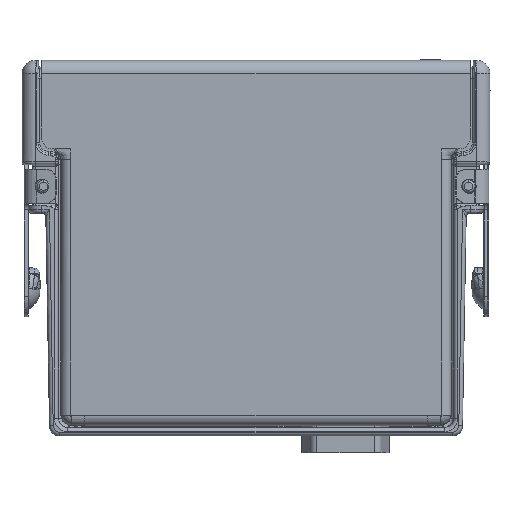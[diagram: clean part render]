
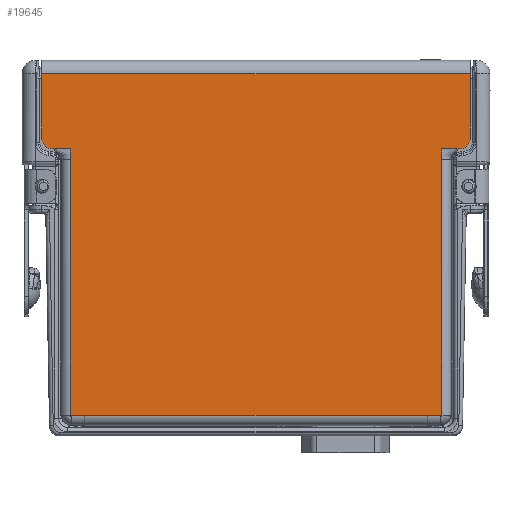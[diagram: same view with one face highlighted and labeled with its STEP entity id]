
A CAD part, left-side view. The second image highlights one B-rep face of the part: STEP entity #19645.
In plain terms, the highlighted planar face has unit normal (-1, 0, 0).
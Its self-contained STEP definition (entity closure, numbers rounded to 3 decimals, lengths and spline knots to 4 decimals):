
#16479=DIRECTION('',(0.,1.,0.));
#16480=VECTOR('',#16479,3.179);
#16481=CARTESIAN_POINT('',(-0.45,-1.5895,2.683));
#16482=LINE('',#16481,#16480);
#16976=DIRECTION('',(0.,1.,0.));
#16977=VECTOR('',#16976,0.009);
#16978=CARTESIAN_POINT('',(-0.45,1.5005,2.127));
#16979=LINE('',#16978,#16977);
#16996=DIRECTION('',(0.,0.,1.));
#16997=VECTOR('',#16996,0.476);
#16998=CARTESIAN_POINT('',(-0.45,1.5895,2.207));
#16999=LINE('',#16998,#16997);
#17000=DIRECTION('',(0.,1.,0.));
#17001=VECTOR('',#17000,0.01);
#17002=CARTESIAN_POINT('',(-0.45,1.3665,0.153));
#17003=LINE('',#17002,#17001);
#17004=DIRECTION('',(0.,0.,1.));
#17005=VECTOR('',#17004,0.079);
#17006=CARTESIAN_POINT('',(-0.45,1.3765,2.048));
#17007=LINE('',#17006,#17005);
#17008=DIRECTION('',(0.,1.,0.));
#17009=VECTOR('',#17008,0.1115);
#17010=CARTESIAN_POINT('',(-0.45,1.3765,2.127));
#17011=LINE('',#17010,#17009);
#17012=DIRECTION('',(0.,1.,0.));
#17013=VECTOR('',#17012,0.0125);
#17014=CARTESIAN_POINT('',(-0.45,1.488,2.127));
#17015=LINE('',#17014,#17013);
#17016=CARTESIAN_POINT('',(-0.45,1.5095,2.207));
#17017=DIRECTION('',(-1.,0.,0.));
#17018=DIRECTION('',(0.,1.,0.));
#17019=AXIS2_PLACEMENT_3D('',#17016,#17017,#17018);
#17021=CARTESIAN_POINT('',(-0.45,-1.5095,2.207));
#17022=DIRECTION('',(-1.,0.,0.));
#17023=DIRECTION('',(0.,0.,-1.));
#17024=AXIS2_PLACEMENT_3D('',#17021,#17022,#17023);
#17026=DIRECTION('',(0.,-1.,0.));
#17027=VECTOR('',#17026,0.0125);
#17028=CARTESIAN_POINT('',(-0.45,-1.488,2.127));
#17029=LINE('',#17028,#17027);
#17030=DIRECTION('',(0.,-1.,0.));
#17031=VECTOR('',#17030,0.1115);
#17032=CARTESIAN_POINT('',(-0.45,-1.3765,2.127));
#17033=LINE('',#17032,#17031);
#17034=DIRECTION('',(0.,0.,1.));
#17035=VECTOR('',#17034,0.079);
#17036=CARTESIAN_POINT('',(-0.45,-1.3765,2.048));
#17037=LINE('',#17036,#17035);
#17038=DIRECTION('',(0.,1.,0.));
#17039=VECTOR('',#17038,0.01);
#17040=CARTESIAN_POINT('',(-0.45,-1.3765,0.153));
#17041=LINE('',#17040,#17039);
#17049=DIRECTION('',(0.,-1.,0.));
#17050=VECTOR('',#17049,2.733);
#17051=CARTESIAN_POINT('',(-0.45,1.3665,0.153));
#17052=LINE('',#17051,#17050);
#17120=DIRECTION('',(0.,0.,1.));
#17121=VECTOR('',#17120,1.895);
#17122=CARTESIAN_POINT('',(-0.45,-1.3765,0.153));
#17123=LINE('',#17122,#17121);
#17372=DIRECTION('',(0.,-1.,0.));
#17373=VECTOR('',#17372,0.009);
#17374=CARTESIAN_POINT('',(-0.45,-1.5005,2.127));
#17375=LINE('',#17374,#17373);
#17388=DIRECTION('',(0.,0.,-1.));
#17389=VECTOR('',#17388,0.476);
#17390=CARTESIAN_POINT('',(-0.45,-1.5895,2.683));
#17391=LINE('',#17390,#17389);
#17787=DIRECTION('',(0.,0.,-1.));
#17788=VECTOR('',#17787,1.895);
#17789=CARTESIAN_POINT('',(-0.45,1.3765,2.048));
#17790=LINE('',#17789,#17788);
#18118=CARTESIAN_POINT('',(-0.45,1.5895,2.207));
#18119=CARTESIAN_POINT('',(-0.45,1.5095,2.127));
#18120=VERTEX_POINT('',#18118);
#18121=VERTEX_POINT('',#18119);
#18122=CARTESIAN_POINT('',(-0.45,1.5895,2.683));
#18123=VERTEX_POINT('',#18122);
#18124=CARTESIAN_POINT('',(-0.45,-1.5895,2.683));
#18125=VERTEX_POINT('',#18124);
#18126=CARTESIAN_POINT('',(-0.45,-1.5895,2.207));
#18127=VERTEX_POINT('',#18126);
#18128=CARTESIAN_POINT('',(-0.45,-1.5095,2.127));
#18129=VERTEX_POINT('',#18128);
#18470=CARTESIAN_POINT('',(-0.45,-1.488,2.127));
#18471=CARTESIAN_POINT('',(-0.45,-1.5005,2.127));
#18472=VERTEX_POINT('',#18470);
#18473=VERTEX_POINT('',#18471);
#18474=CARTESIAN_POINT('',(-0.45,-1.3765,2.048));
#18475=CARTESIAN_POINT('',(-0.45,-1.3765,2.127));
#18476=VERTEX_POINT('',#18474);
#18477=VERTEX_POINT('',#18475);
#18491=CARTESIAN_POINT('',(-0.45,1.3765,2.048));
#18492=CARTESIAN_POINT('',(-0.45,1.3765,2.127));
#18493=VERTEX_POINT('',#18491);
#18494=VERTEX_POINT('',#18492);
#18495=CARTESIAN_POINT('',(-0.45,1.488,2.127));
#18496=CARTESIAN_POINT('',(-0.45,1.5005,2.127));
#18497=VERTEX_POINT('',#18495);
#18498=VERTEX_POINT('',#18496);
#18512=CARTESIAN_POINT('',(-0.45,-1.3765,0.153));
#18513=CARTESIAN_POINT('',(-0.45,-1.3665,0.153));
#18514=VERTEX_POINT('',#18512);
#18515=VERTEX_POINT('',#18513);
#18539=CARTESIAN_POINT('',(-0.45,1.3665,0.153));
#18540=CARTESIAN_POINT('',(-0.45,1.3765,0.153));
#18541=VERTEX_POINT('',#18539);
#18542=VERTEX_POINT('',#18540);
#19606=CARTESIAN_POINT('',(-0.45,0.,1.418));
#19607=DIRECTION('',(1.,0.,0.));
#19608=DIRECTION('',(0.,1.,0.));
#19609=AXIS2_PLACEMENT_3D('',#19606,#19607,#19608);
#19610=PLANE('',#19609);
#19612=ORIENTED_EDGE('',*,*,#19611,.T.);
#19614=ORIENTED_EDGE('',*,*,#19613,.F.);
#19616=ORIENTED_EDGE('',*,*,#19615,.T.);
#19618=ORIENTED_EDGE('',*,*,#19617,.T.);
#19620=ORIENTED_EDGE('',*,*,#19619,.T.);
#19621=ORIENTED_EDGE('',*,*,#19574,.T.);
#19622=ORIENTED_EDGE('',*,*,#19588,.F.);
#19623=ORIENTED_EDGE('',*,*,#19601,.T.);
#19624=ORIENTED_EDGE('',*,*,#18714,.F.);
#19626=ORIENTED_EDGE('',*,*,#19625,.T.);
#19628=ORIENTED_EDGE('',*,*,#19627,.F.);
#19630=ORIENTED_EDGE('',*,*,#19629,.F.);
#19632=ORIENTED_EDGE('',*,*,#19631,.F.);
#19634=ORIENTED_EDGE('',*,*,#19633,.F.);
#19636=ORIENTED_EDGE('',*,*,#19635,.F.);
#19638=ORIENTED_EDGE('',*,*,#19637,.F.);
#19640=ORIENTED_EDGE('',*,*,#19639,.T.);
#19642=ORIENTED_EDGE('',*,*,#19641,.F.);
#19643=EDGE_LOOP('',(#19612,#19614,#19616,#19618,#19620,#19621,#19622,#19623,
#19624,#19626,#19628,#19630,#19632,#19634,#19636,#19638,#19640,#19642));
#19644=FACE_OUTER_BOUND('',#19643,.F.);
#19645=ADVANCED_FACE('',(#19644),#19610,.F.);
#17020=CIRCLE('',#17019,0.08);
#17025=CIRCLE('',#17024,0.08);
#18714=EDGE_CURVE('',#18125,#18123,#16482,.T.);
#19574=EDGE_CURVE('',#18498,#18121,#16979,.T.);
#19588=EDGE_CURVE('',#18120,#18121,#17020,.T.);
#19601=EDGE_CURVE('',#18120,#18123,#16999,.T.);
#19611=EDGE_CURVE('',#18541,#18542,#17003,.T.);
#19613=EDGE_CURVE('',#18493,#18542,#17790,.T.);
#19615=EDGE_CURVE('',#18493,#18494,#17007,.T.);
#19617=EDGE_CURVE('',#18494,#18497,#17011,.T.);
#19619=EDGE_CURVE('',#18497,#18498,#17015,.T.);
#19625=EDGE_CURVE('',#18125,#18127,#17391,.T.);
#19627=EDGE_CURVE('',#18129,#18127,#17025,.T.);
#19629=EDGE_CURVE('',#18473,#18129,#17375,.T.);
#19631=EDGE_CURVE('',#18472,#18473,#17029,.T.);
#19633=EDGE_CURVE('',#18477,#18472,#17033,.T.);
#19635=EDGE_CURVE('',#18476,#18477,#17037,.T.);
#19637=EDGE_CURVE('',#18514,#18476,#17123,.T.);
#19639=EDGE_CURVE('',#18514,#18515,#17041,.T.);
#19641=EDGE_CURVE('',#18541,#18515,#17052,.T.);
